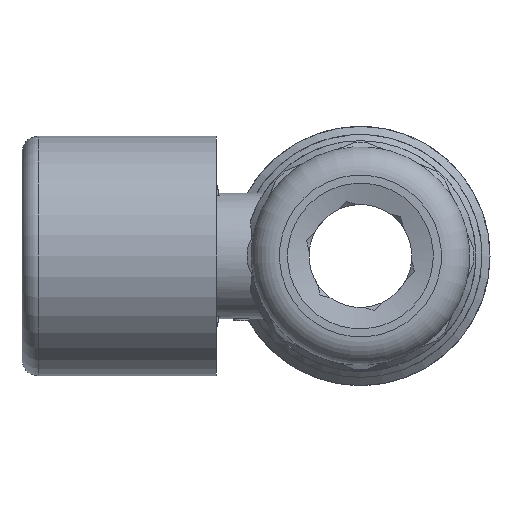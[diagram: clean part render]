
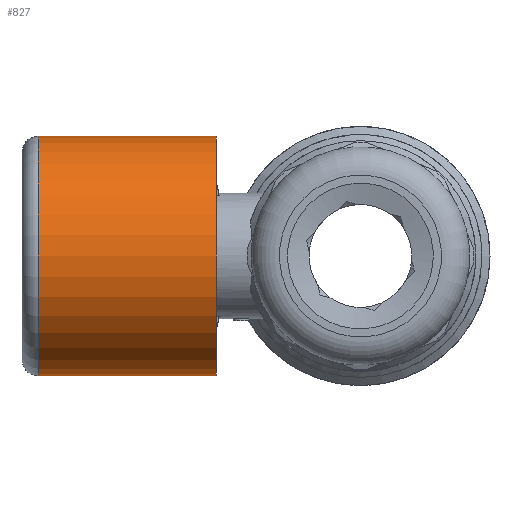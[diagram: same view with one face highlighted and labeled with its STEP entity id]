
A CAD part, left-side view. The second image highlights one B-rep face of the part: STEP entity #827.
In plain terms, the highlighted cylindrical face has radius 14.8 mm (diameter 29.6 mm), a full revolution.
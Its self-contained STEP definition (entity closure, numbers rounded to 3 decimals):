
#785=CARTESIAN_POINT('',(0.0,39.729,14.829));
#786=VERTEX_POINT('',#785);
#787=CARTESIAN_POINT('',(0.,39.729,0.029));
#788=DIRECTION('',(0.0,1.0,0.0));
#789=DIRECTION('',(0.0,0.0,1.0));
#790=AXIS2_PLACEMENT_3D('',#787,#788,#789);
#791=CIRCLE('',#790,14.8);
#792=EDGE_CURVE('',#786,#786,#791,.T.);
#808=CARTESIAN_POINT('',(0.0,28.729,0.029));
#809=DIRECTION('',(0.0,1.0,0.0));
#810=DIRECTION('',(-1.0,0.0,0.0));
#811=AXIS2_PLACEMENT_3D('',#808,#809,#810);
#812=CYLINDRICAL_SURFACE('',#811,14.8);
#813=CARTESIAN_POINT('',(0.0,17.729,14.829));
#814=VERTEX_POINT('',#813);
#815=CARTESIAN_POINT('',(0.0,17.729,0.029));
#816=DIRECTION('',(0.0,1.0,0.0));
#817=DIRECTION('',(0.0,0.0,1.0));
#818=AXIS2_PLACEMENT_3D('',#815,#816,#817);
#819=CIRCLE('',#818,14.8);
#820=EDGE_CURVE('',#814,#814,#819,.T.);
#821=ORIENTED_EDGE('',*,*,#820,.T.);
#822=EDGE_LOOP('',(#821));
#823=FACE_OUTER_BOUND('',#822,.T.);
#824=ORIENTED_EDGE('',*,*,#792,.F.);
#825=EDGE_LOOP('',(#824));
#826=FACE_BOUND('',#825,.T.);
#827=ADVANCED_FACE('',(#823,#826),#812,.T.);
